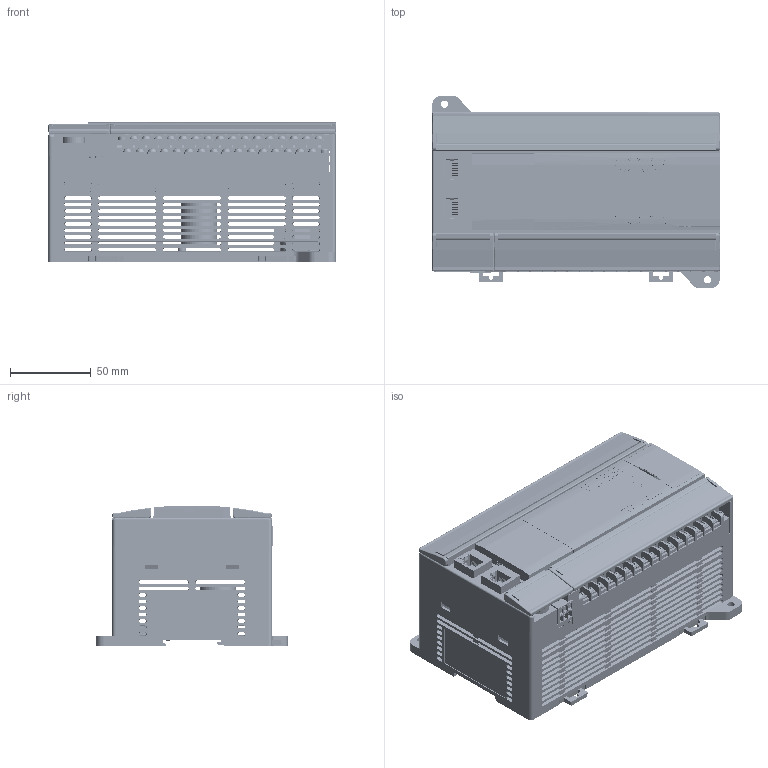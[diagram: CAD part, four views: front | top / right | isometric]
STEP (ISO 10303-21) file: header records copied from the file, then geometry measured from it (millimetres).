
FILE_DESCRIPTION((''),'2;1');
FILE_NAME('MP2-60_ASM','2022-03-29T11:05:42',('Lenovo'),(''),'CREO PARAMETRIC BY PTC INC, 2020033','CREO PARAMETRIC BY PTC INC, 2020033','');
FILE_SCHEMA(('CONFIG_CONTROL_DESIGN'));
Products named in the file (23): MP2-60-BASE; MP2-60-COVER; MP2-60-GB1; MP2-60-GB2; MP2-60-GB3; MP2-60-FG; MP2-60-BDMK; IO_PCB; M3; M3LD; IO_PCB_ASM; CONTROL_PCB; RJ45_1X1_; CONNECTOR_3_81MM3PIN_MALE; CONTEOL_PCB_ASM; POWER_PCB; MPLC_PCB_ASM; KAKOU; DIANCHIHE; MP2-60-DGZ01; MP2-60-DGZ02; MP2-60-DGZ03; MP2-60_ASM
Assembly tree (102 placements, depth 4):
  MP2-60_ASM
    MP2-60-BASE
    MP2-60-COVER
    MP2-60-GB1
    MP2-60-GB2
    MP2-60-GB3
    MP2-60-FG
    MP2-60-BDMK
    MPLC_PCB_ASM
      IO_PCB_ASM
        IO_PCB
        M3  x4
        M3LD  x74
      CONTEOL_PCB_ASM  x2
        CONTROL_PCB
        RJ45_1X1_
        CONNECTOR_3_81MM3PIN_MALE
      POWER_PCB
    KAKOU  x2
    DIANCHIHE
    MP2-60-DGZ01
    MP2-60-DGZ02
    MP2-60-DGZ03
Bounding box: 177.5 x 118.5 x 85.95 mm (x, y, z)
Volume: 459519.9 mm3; surface area: 427889.6 mm2
Topology: 163 solids, 198 shells, 13596 faces, 37637 edges, 24579 vertices
Faces by surface type: plane 9566, cylinder 2405, bspline 581, torus 430, sphere 291, cone 250, extrusion 73
Entity records: 216384 total; most frequent: CARTESIAN_POINT 63046, ORIENTED_EDGE 34157, DIRECTION 27988, EDGE_CURVE 17133, VECTOR 11532, LINE 11460, VERTEX_POINT 11415, AXIS2_PLACEMENT_3D 8228
